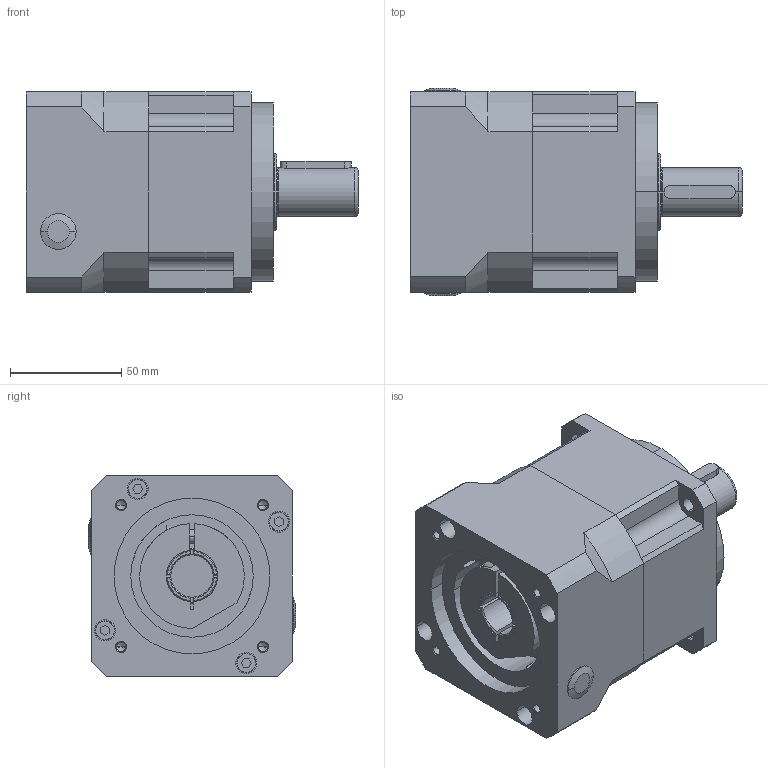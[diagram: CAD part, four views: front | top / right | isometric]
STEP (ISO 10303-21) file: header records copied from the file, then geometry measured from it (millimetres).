
FILE_DESCRIPTION (( 'STEP AP203' ), '1' );
FILE_NAME ('090-L1-19-70-90-M5.STEP', '2020-06-08T08:47:16', ( 'ylmfeng' ), ( 'ylmfeng.com' ), 'SwSTEP 2.0', 'SolidWorks 2014', '' );
FILE_SCHEMA (( 'CONFIG_CONTROL_DESIGN' ));
Length unit declared in the file: millimetre
Products named in the file (1): 090-L1-19-70-90-M5
Bounding box: 149 x 93 x 90 mm (x, y, z)
Volume: 760248 mm3; surface area: 111021.1 mm2
Topology: 14 solids, 15 shells, 411 faces, 992 edges, 624 vertices
Faces by surface type: plane 159, cylinder 132, cone 66, torus 26, bspline 24, sphere 4
Entity records: 13274 total; most frequent: CARTESIAN_POINT 3577, DIRECTION 2059, ORIENTED_EDGE 1964, EDGE_CURVE 982, AXIS2_PLACEMENT_3D 800, VERTEX_POINT 624, EDGE_LOOP 460, LINE 459
